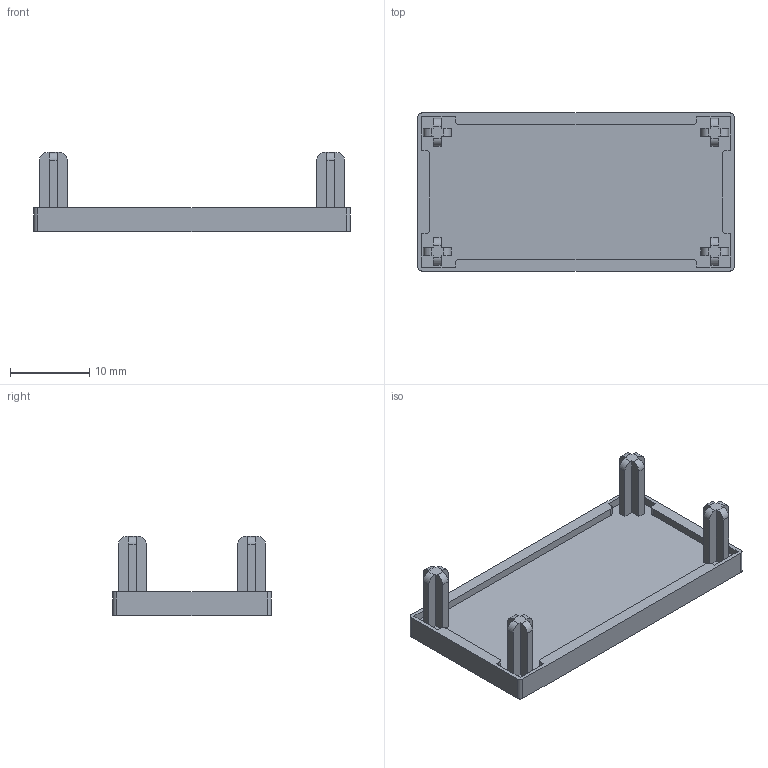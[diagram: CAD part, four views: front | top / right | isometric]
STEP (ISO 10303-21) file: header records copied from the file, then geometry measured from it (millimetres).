
FILE_DESCRIPTION(/* description */ (''),/* implementation_level */ '2;1');
FILE_NAME(/* name */ '\\AM-PUBLIC\Share\02.新型錄-2021\AM4系列\4系列-3D\02.4系列-AMC-端蓋\AMC-2040B.stp',/* time_stamp */ '2022-03-18T17:32:22+08:00',/* author */ ('user'),/* organization */ (''),/* preprocessor_version */ 'ST-DEVELOPER v18.1',/* originating_system */ 'Autodesk Inventor 2021',/* authorisation */ '');
FILE_SCHEMA (('AUTOMOTIVE_DESIGN { 1 0 10303 214 3 1 1 }'));
Length unit declared in the file: millimetre
Products named in the file (1): AMC-2040B
Bounding box: 40 x 20 x 10 mm (x, y, z)
Volume: 1928.7 mm3; surface area: 2513.2 mm2
Topology: 1 solids, 1 shells, 107 faces, 387 edges, 374 vertices
Faces by surface type: plane 79, cylinder 28
Entity records: 3878 total; most frequent: CARTESIAN_POINT 790, ORIENTED_EDGE 600, DIRECTION 588, EDGE_CURVE 300, LINE 244, VECTOR 244, VERTEX_POINT 200, AXIS2_PLACEMENT_3D 172
